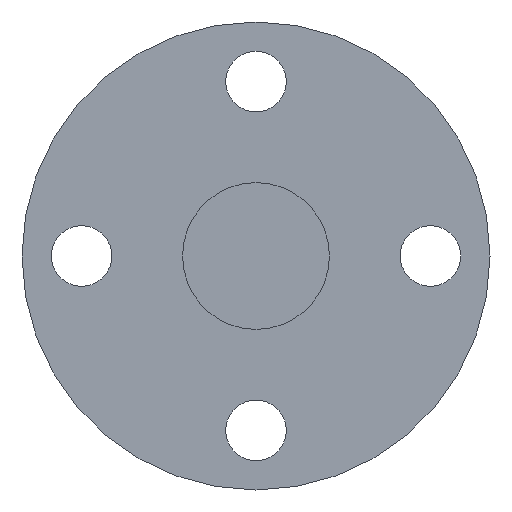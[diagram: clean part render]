
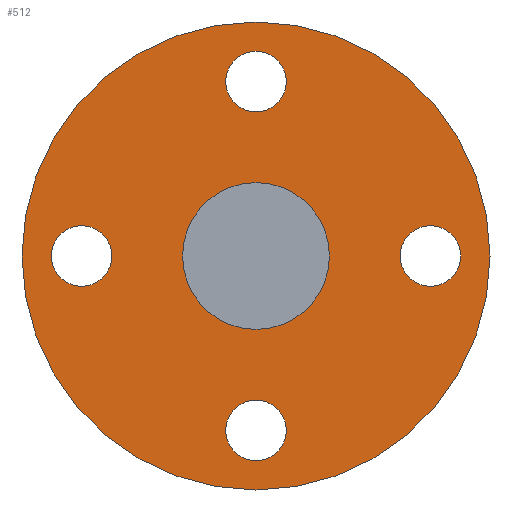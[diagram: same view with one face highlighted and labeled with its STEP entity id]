
A CAD part, left-side view. The second image highlights one B-rep face of the part: STEP entity #512.
In plain terms, the highlighted planar face has unit normal (-1, 0, 0).
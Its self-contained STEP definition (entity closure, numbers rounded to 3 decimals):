
#401=CARTESIAN_POINT('',(130.0,19.0,-3.3));
#402=VERTEX_POINT('',#401);
#403=CARTESIAN_POINT('',(130.0,19.0,0.));
#404=DIRECTION('',(1.0,0.0,0.0));
#405=DIRECTION('',(0.0,0.0,-1.0));
#406=AXIS2_PLACEMENT_3D('',#403,#404,#405);
#407=CIRCLE('',#406,3.3);
#408=EDGE_CURVE('',#402,#402,#407,.T.);
#421=CARTESIAN_POINT('',(130.0,-3.3,-19.0));
#422=VERTEX_POINT('',#421);
#423=CARTESIAN_POINT('',(130.0,0.,-19.0));
#424=DIRECTION('',(1.0,0.0,0.0));
#425=DIRECTION('',(0.0,-1.0,0.0));
#426=AXIS2_PLACEMENT_3D('',#423,#424,#425);
#427=CIRCLE('',#426,3.3);
#428=EDGE_CURVE('',#422,#422,#427,.T.);
#441=CARTESIAN_POINT('',(130.0,-19.0,3.3));
#442=VERTEX_POINT('',#441);
#443=CARTESIAN_POINT('',(130.0,-19.0,0.));
#444=DIRECTION('',(1.0,0.0,0.0));
#445=DIRECTION('',(0.0,0.0,1.0));
#446=AXIS2_PLACEMENT_3D('',#443,#444,#445);
#447=CIRCLE('',#446,3.3);
#448=EDGE_CURVE('',#442,#442,#447,.T.);
#461=CARTESIAN_POINT('',(130.0,3.3,19.0));
#462=VERTEX_POINT('',#461);
#463=CARTESIAN_POINT('',(130.0,0.0,19.0));
#464=DIRECTION('',(1.0,0.0,0.0));
#465=DIRECTION('',(0.0,1.0,0.0));
#466=AXIS2_PLACEMENT_3D('',#463,#464,#465);
#467=CIRCLE('',#466,3.3);
#468=EDGE_CURVE('',#462,#462,#467,.T.);
#473=CARTESIAN_POINT('',(130.0,0.0,16.75));
#474=DIRECTION('',(-1.0,0.0,0.0));
#475=DIRECTION('',(0.0,0.0,1.0));
#476=AXIS2_PLACEMENT_3D('',#473,#474,#475);
#477=PLANE('',#476);
#478=CARTESIAN_POINT('',(130.0,0.0,25.5));
#479=VERTEX_POINT('',#478);
#480=CARTESIAN_POINT('',(130.0,0.0,0.0));
#481=DIRECTION('',(-1.0,0.0,0.0));
#482=DIRECTION('',(0.0,0.0,1.0));
#483=AXIS2_PLACEMENT_3D('',#480,#481,#482);
#484=CIRCLE('',#483,25.5);
#485=EDGE_CURVE('',#479,#479,#484,.T.);
#486=ORIENTED_EDGE('',*,*,#485,.T.);
#487=EDGE_LOOP('',(#486));
#488=FACE_OUTER_BOUND('',#487,.T.);
#489=ORIENTED_EDGE('',*,*,#408,.T.);
#490=EDGE_LOOP('',(#489));
#491=FACE_BOUND('',#490,.T.);
#492=ORIENTED_EDGE('',*,*,#428,.T.);
#493=EDGE_LOOP('',(#492));
#494=FACE_BOUND('',#493,.T.);
#495=ORIENTED_EDGE('',*,*,#448,.T.);
#496=EDGE_LOOP('',(#495));
#497=FACE_BOUND('',#496,.T.);
#498=ORIENTED_EDGE('',*,*,#468,.T.);
#499=EDGE_LOOP('',(#498));
#500=FACE_BOUND('',#499,.T.);
#501=CARTESIAN_POINT('',(130.0,0.0,8.));
#502=VERTEX_POINT('',#501);
#503=CARTESIAN_POINT('',(130.0,0.0,0.0));
#504=DIRECTION('',(-1.0,0.0,0.0));
#505=DIRECTION('',(0.0,0.0,1.0));
#506=AXIS2_PLACEMENT_3D('',#503,#504,#505);
#507=CIRCLE('',#506,8.);
#508=EDGE_CURVE('',#502,#502,#507,.T.);
#509=ORIENTED_EDGE('',*,*,#508,.F.);
#510=EDGE_LOOP('',(#509));
#511=FACE_BOUND('',#510,.T.);
#512=ADVANCED_FACE('',(#488,#491,#494,#497,#500,#511),#477,.T.);
